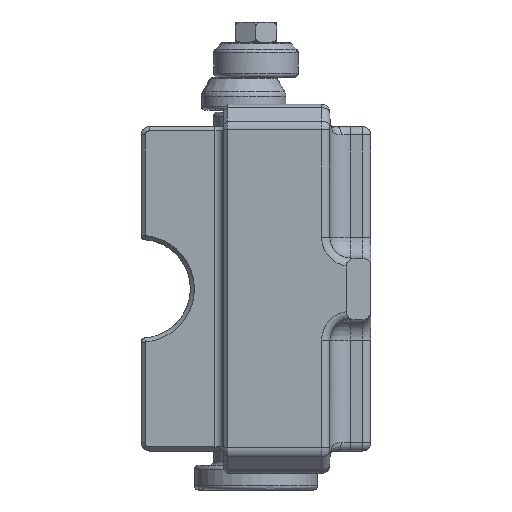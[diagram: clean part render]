
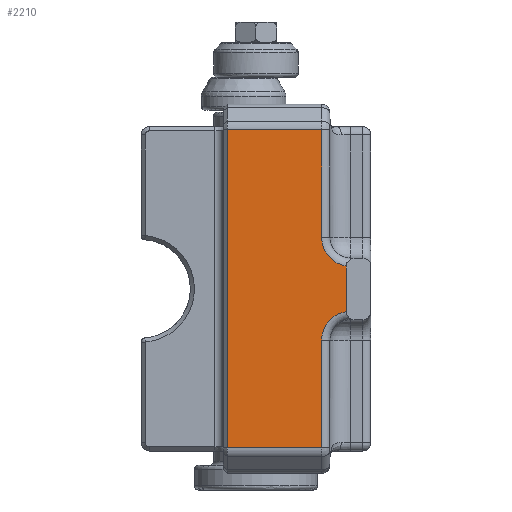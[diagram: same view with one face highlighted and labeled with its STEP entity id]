
A CAD part, front view. The second image highlights one B-rep face of the part: STEP entity #2210.
In plain terms, the highlighted planar face has unit normal (0, -1, 0).
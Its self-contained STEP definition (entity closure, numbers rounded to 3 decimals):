
#2210=ADVANCED_FACE('*FAC1881',(#3377),#2766,.F.);
#2766=PLANE('',#26851);
#3377=FACE_OUTER_BOUND('',#4280,.T.);
#4280=EDGE_LOOP('',(#9891,#9892,#9893,#9894,#9895,#9896,#9897,#9898));
#9891=ORIENTED_EDGE('',*,*,#20547,.F.);
#9892=ORIENTED_EDGE('',*,*,#20546,.F.);
#9893=ORIENTED_EDGE('',*,*,#20550,.F.);
#9894=ORIENTED_EDGE('',*,*,#20706,.F.);
#9895=ORIENTED_EDGE('',*,*,#20707,.F.);
#9896=ORIENTED_EDGE('',*,*,#20708,.F.);
#9897=ORIENTED_EDGE('',*,*,#20544,.F.);
#9898=ORIENTED_EDGE('',*,*,#20548,.F.);
#16095=VERTEX_POINT('',#43314);
#16097=VERTEX_POINT('',#43351);
#16102=VERTEX_POINT('',#43395);
#16103=VERTEX_POINT('',#43405);
#16220=VERTEX_POINT('',#44520);
#16221=VERTEX_POINT('',#44549);
#16330=VERTEX_POINT('',#46099);
#16331=VERTEX_POINT('',#46104);
#20544=EDGE_CURVE('',#16095,#16220,#24690,.T.);
#20546=EDGE_CURVE('',#16103,#16097,#24692,.T.);
#20547=EDGE_CURVE('',#16097,#16102,#24693,.T.);
#20548=EDGE_CURVE('',#16102,#16095,#24694,.T.);
#20550=EDGE_CURVE('',#16221,#16103,#24696,.T.);
#20706=EDGE_CURVE('',#16330,#16221,#24763,.T.);
#20707=EDGE_CURVE('',#16331,#16330,#24764,.T.);
#20708=EDGE_CURVE('',#16220,#16331,#24765,.T.);
#24690=B_SPLINE_CURVE_WITH_KNOTS('',3,(#44516,#44517,#44518,#44519),
 .UNSPECIFIED.,.F.,.F.,(4,4),(0.,1.),.UNSPECIFIED.);
#24692=B_SPLINE_CURVE_WITH_KNOTS('',3,(#44528,#44529,#44530,#44531),
 .UNSPECIFIED.,.F.,.F.,(4,4),(0.,1.),.UNSPECIFIED.);
#24693=B_SPLINE_CURVE_WITH_KNOTS('',3,(#44533,#44534,#44535,#44536),
 .UNSPECIFIED.,.F.,.F.,(4,4),(0.,1.),.UNSPECIFIED.);
#24694=B_SPLINE_CURVE_WITH_KNOTS('',3,(#44538,#44539,#44540,#44541),
 .UNSPECIFIED.,.F.,.F.,(4,4),(0.,1.),.UNSPECIFIED.);
#24696=B_SPLINE_CURVE_WITH_KNOTS('',3,(#44550,#44551,#44552,#44553),
 .UNSPECIFIED.,.F.,.F.,(4,4),(0.,1.),.UNSPECIFIED.);
#24763=B_SPLINE_CURVE_WITH_KNOTS('',3,(#46093,#46094,#46095,#46096,#46097,
#46098),.UNSPECIFIED.,.F.,.F.,(4,2,4),(0.,0.5,1.),.UNSPECIFIED.);
#24764=B_SPLINE_CURVE_WITH_KNOTS('',3,(#46100,#46101,#46102,#46103),
 .UNSPECIFIED.,.F.,.F.,(4,4),(0.,1.),.UNSPECIFIED.);
#24765=B_SPLINE_CURVE_WITH_KNOTS('',3,(#46105,#46106,#46107,#46108,#46109,
#46110),.UNSPECIFIED.,.F.,.F.,(4,2,4),(0.,0.5,1.),.UNSPECIFIED.);
#26851=AXIS2_PLACEMENT_3D('',#46111,#27647,#27648);
#27647=DIRECTION('',(0.,1.,0.));
#27648=DIRECTION('',(0.,0.,1.));
#43314=CARTESIAN_POINT('',(16.,0.,-6.243));
#43351=CARTESIAN_POINT('',(-7.,0.,-83.757));
#43395=CARTESIAN_POINT('',(-7.,0.,-6.243));
#43405=CARTESIAN_POINT('',(16.,0.,-83.757));
#44516=CARTESIAN_POINT('',(16.,0.,-6.243));
#44517=CARTESIAN_POINT('',(16.,0.,-14.995));
#44518=CARTESIAN_POINT('',(16.,0.,-23.748));
#44519=CARTESIAN_POINT('',(16.,0.,-32.5));
#44520=CARTESIAN_POINT('',(16.,0.,-32.5));
#44528=CARTESIAN_POINT('',(16.,0.,-83.757));
#44529=CARTESIAN_POINT('',(8.333,0.,-83.757));
#44530=CARTESIAN_POINT('',(0.667,0.,-83.757));
#44531=CARTESIAN_POINT('',(-7.,0.,-83.757));
#44533=CARTESIAN_POINT('',(-7.,0.,-83.757));
#44534=CARTESIAN_POINT('',(-7.,0.,-57.919));
#44535=CARTESIAN_POINT('',(-7.,0.,-32.081));
#44536=CARTESIAN_POINT('',(-7.,0.,-6.243));
#44538=CARTESIAN_POINT('',(-7.,0.,-6.243));
#44539=CARTESIAN_POINT('',(0.667,0.,-6.243));
#44540=CARTESIAN_POINT('',(8.333,0.,-6.243));
#44541=CARTESIAN_POINT('',(16.,0.,-6.243));
#44549=CARTESIAN_POINT('',(16.,0.,-57.5));
#44550=CARTESIAN_POINT('',(16.,0.,-57.5));
#44551=CARTESIAN_POINT('',(16.,0.,-66.252));
#44552=CARTESIAN_POINT('',(16.,0.,-75.005));
#44553=CARTESIAN_POINT('',(16.,0.,-83.757));
#46093=CARTESIAN_POINT('',(22.,0.,-50.572));
#46094=CARTESIAN_POINT('',(20.352,0.,-50.81));
#46095=CARTESIAN_POINT('',(18.799,0.,-51.659));
#46096=CARTESIAN_POINT('',(16.618,0.,-54.176));
#46097=CARTESIAN_POINT('',(16.,0.,-55.835));
#46098=CARTESIAN_POINT('',(16.,0.,-57.5));
#46099=CARTESIAN_POINT('',(22.,0.,-50.572));
#46100=CARTESIAN_POINT('',(22.,0.,-39.428));
#46101=CARTESIAN_POINT('',(22.,0.,-43.143));
#46102=CARTESIAN_POINT('',(22.,0.,-46.857));
#46103=CARTESIAN_POINT('',(22.,0.,-50.572));
#46104=CARTESIAN_POINT('',(22.,0.,-39.428));
#46105=CARTESIAN_POINT('',(16.,0.,-32.5));
#46106=CARTESIAN_POINT('',(16.,0.,-34.165));
#46107=CARTESIAN_POINT('',(16.618,0.,-35.824));
#46108=CARTESIAN_POINT('',(18.799,0.,-38.341));
#46109=CARTESIAN_POINT('',(20.352,0.,-39.19));
#46110=CARTESIAN_POINT('',(22.,0.,-39.428));
#46111=CARTESIAN_POINT('',(-7.,0.,-83.757));
